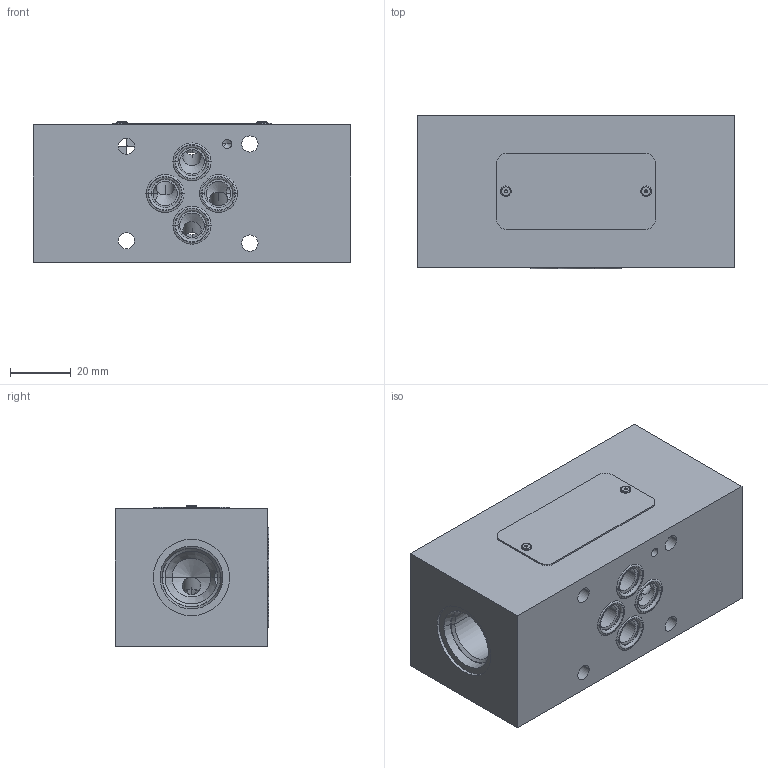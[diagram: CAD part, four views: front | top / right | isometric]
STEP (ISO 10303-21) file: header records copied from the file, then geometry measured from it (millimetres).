
FILE_DESCRIPTION((''),'2;1');
FILE_NAME('1000310415_ASM','2023-10-12T',('l.soukupova'),(''),'PRO/ENGINEER BY PARAMETRIC TECHNOLOGY CORPORATION, 2015440','PRO/ENGINEER BY PARAMETRIC TECHNOLOGY CORPORATION, 2015440','');
FILE_SCHEMA(('AUTOMOTIVE_DESIGN { 1 0 10303 214 1 1 1 1 }'));
Length unit declared in the file: millimetre
Products named in the file (5): 30122502; RD_LABEL_25X52_159703; AF_1932_16485; ORAR00012_201524; 1000310415_ASM
Assembly tree (8 placements, depth 2):
  1000310415_ASM
    30122502
    RD_LABEL_25X52_159703
    AF_1932_16485  x2
    ORAR00012_201524  x4
Bounding box: 104 x 50.38 x 46 mm (x, y, z)
Volume: 206762.2 mm3; surface area: 41296.6 mm2
Topology: 8 solids, 12 shells, 225 faces, 709 edges, 589 vertices
Faces by surface type: cylinder 112, cone 41, plane 36, torus 36
Entity records: 11588 total; most frequent: CARTESIAN_POINT 3184, DIRECTION 1150, ORIENTED_EDGE 858, PRESENTATION_STYLE_ASSIGNMENT 732, STYLED_ITEM 648, CURVE_STYLE 641, AXIS2_PLACEMENT_3D 443, EDGE_CURVE 437
